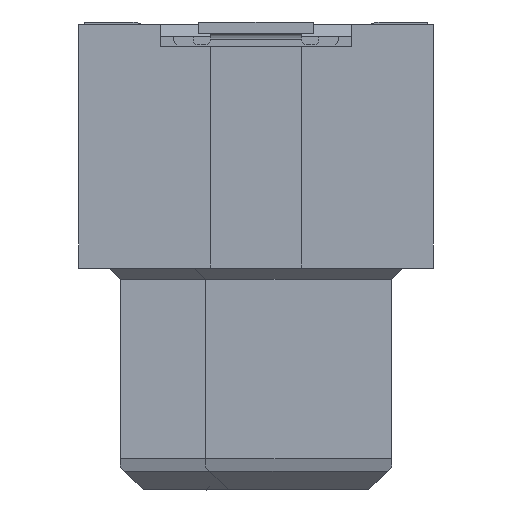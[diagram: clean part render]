
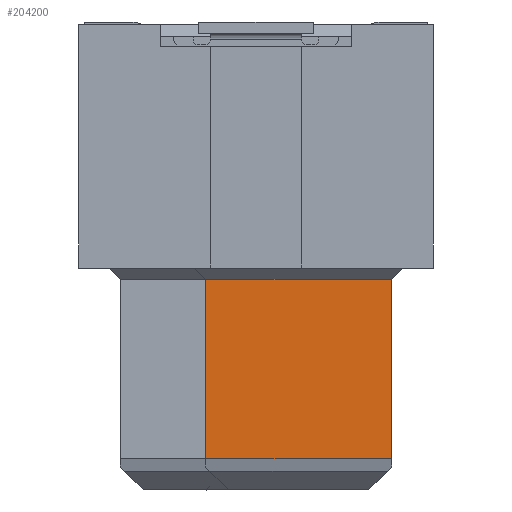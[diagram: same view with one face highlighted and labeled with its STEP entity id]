
A CAD part, left-side view. The second image highlights one B-rep face of the part: STEP entity #204200.
In plain terms, the highlighted planar face has unit normal (-1, 0, 0).
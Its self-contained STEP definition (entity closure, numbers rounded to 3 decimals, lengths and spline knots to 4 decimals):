
#115960=CARTESIAN_POINT('',(-38.6975,1.44,
3.06));
#115970=VERTEX_POINT('',#115960);
#116000=CARTESIAN_POINT('',(-38.6975,1.44,
10.39));
#116010=DIRECTION('',(0.,0.,
1.));
#116020=VECTOR('',#116010,1.);
#116030=LINE('',#116000,#116020);
#116040=CARTESIAN_POINT('',(-38.6975,1.44,
6.19));
#116050=VERTEX_POINT('',#116040);
#116060=EDGE_CURVE('',#115970,#116050,#116030,.T.);
#201800=CARTESIAN_POINT('',(-38.6975,4.69,
3.06));
#201810=VERTEX_POINT('',#201800);
#201840=CARTESIAN_POINT('',(-38.6975,4.64,
3.06));
#201850=DIRECTION('',(0.,1.,
0.));
#201860=VECTOR('',#201850,1.);
#201870=LINE('',#201840,#201860);
#201880=EDGE_CURVE('',#115970,#201810,#201870,.T.);
#202950=CARTESIAN_POINT('',(-38.6975,4.69,
6.19));
#202960=VERTEX_POINT('',#202950);
#203010=CARTESIAN_POINT('',(-38.6975,4.69,
10.39));
#203020=DIRECTION('',(0.,0.,
-1.));
#203030=VECTOR('',#203020,1.);
#203040=LINE('',#203010,#203030);
#203050=EDGE_CURVE('',#202960,#201810,#203040,.T.);
#204000=CARTESIAN_POINT('',(-38.6975,4.64,
6.19));
#204010=DIRECTION('',(0.,1.,
0.));
#204020=VECTOR('',#204010,1.);
#204030=LINE('',#204000,#204020);
#204040=EDGE_CURVE('',#116050,#202960,#204030,.T.);
#204090=CARTESIAN_POINT('',(-38.6975,3.81,
4.65));
#204100=DIRECTION('',(-1.,0.,0.));
#204110=DIRECTION('',(0.,1.,
0.));
#204120=AXIS2_PLACEMENT_3D('',#204090,#204100,#204110);
#204130=PLANE('',#204120);
#204140=ORIENTED_EDGE('',*,*,#203050,.T.);
#204150=ORIENTED_EDGE('',*,*,#204040,.T.);
#204160=ORIENTED_EDGE('',*,*,#116060,.T.);
#204170=ORIENTED_EDGE('',*,*,#201880,.F.);
#204180=EDGE_LOOP('',(#204170,#204160,#204150,#204140));
#204190=FACE_OUTER_BOUND('',#204180,.T.);
#204200=ADVANCED_FACE('',(#204190),#204130,.T.);
